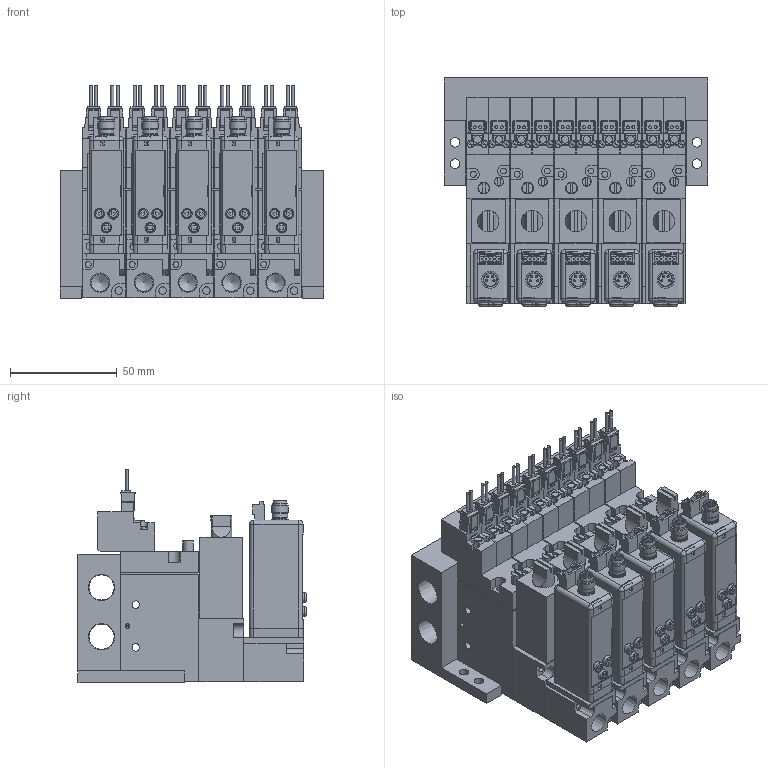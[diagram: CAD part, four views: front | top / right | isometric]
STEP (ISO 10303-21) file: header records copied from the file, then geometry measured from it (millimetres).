
FILE_DESCRIPTION(('STEP AP203'),'1');
FILE_NAME('BMPV32M2N20225BL505.stp','2025-06-16T09:01:04',(' '),(' '),'Spatial InterOp 3D',' ',' ');
FILE_SCHEMA(('CONFIG_CONTROL_DESIGN'));
Length unit declared in the file: millimetre
Products named in the file (64): BMPV32M2N20225BL505; MVS-202; ___-3(Rc); Filter Assy; __; _____; ___ ___; MB BRACKET; MB05; ___; upper plate-A; ______; ____; VACUUM VALVE FUNCTION MPV42-A
Assembly tree (63 placements, depth 2):
  BMPV32M2N20225BL505
    MVS-202
    ___-3(Rc)
    Filter Assy
    __
    _____
    ___ ___
    MVS-202
    ___-3(Rc)
    Filter Assy
    __
    _____
    ___ ___
    MVS-202
    ___-3(Rc)
    Filter Assy
    __
    _____
    ___ ___
    MVS-202
    ___-3(Rc)
    Filter Assy
    __
    _____
    ___ ___
    MB BRACKET
    MB BRACKET
    MB05
    MVS-202
    ___-3(Rc)
    Filter Assy
    __
    _____
    ___ ___
    ___
    upper plate-A
    ______
    ____
    VACUUM VALVE FUNCTION MPV42-A
    VACUUM VALVE FUNCTION MPV42-A
    ___
    upper plate-A
    ______
    ____
    VACUUM VALVE FUNCTION MPV42-A
    VACUUM VALVE FUNCTION MPV42-A
    ___
    upper plate-A
    ______
    ____
    VACUUM VALVE FUNCTION MPV42-A
    VACUUM VALVE FUNCTION MPV42-A
    ___
    upper plate-A
    ______
    ____
    VACUUM VALVE FUNCTION MPV42-A
    VACUUM VALVE FUNCTION MPV42-A
    ___
    upper plate-A
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Bounding box: 123 x 106.6 x 99.75 mm (x, y, z)
Volume: 647272.5 mm3; surface area: 227860.7 mm2
Topology: 63 solids, 83 shells, 3862 faces, 9905 edges, 6499 vertices
Faces by surface type: plane 3156, cylinder 583, cone 88, sphere 20, torus 15
Full cylindrical faces by diameter (mm): 1 x20, 1.4 x20, 1.5 x5, 1.8 x10, 2 x10, 2.5 x14, 2.8 x20, 3 x20, 3.5 x54, 4 x5, 4.2 x5, 4.5 x24, 4.8 x15, 5 x15, 5.5 x5, 5.8 x10, 6 x5, 6.5 x21, 7 x5, 7.2 x5, 7.9 x5, 8 x10, 8.2 x5, 8.759 x5, 11.776 x2
Entity records: 116560 total; most frequent: CARTESIAN_POINT 20353, ORIENTED_EDGE 18656, DIRECTION 18580, EDGE_CURVE 9328, LINE 7768, VECTOR 7768, VERTEX_POINT 6399, AXIS2_PLACEMENT_3D 5406
